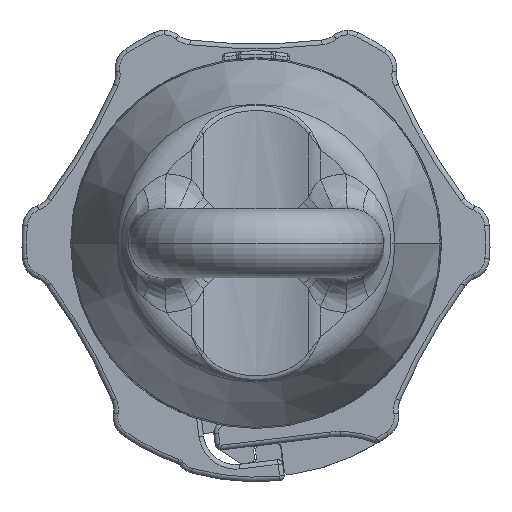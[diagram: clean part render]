
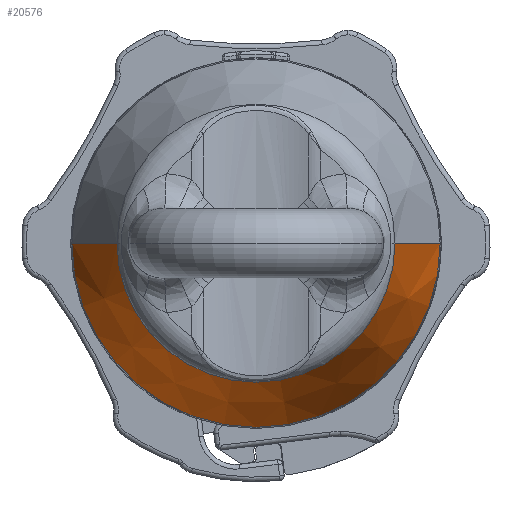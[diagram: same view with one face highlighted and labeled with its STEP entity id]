
A CAD part, front view. The second image highlights one B-rep face of the part: STEP entity #20576.
In plain terms, the highlighted conical face has half-angle 21.306 degrees and reference radius 6 mm.
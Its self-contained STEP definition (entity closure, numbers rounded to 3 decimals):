
#1209 = DIRECTION ( 'NONE',  ( 0.363, 0.932, 0. ) ) ;
#3800 = LINE ( 'NONE', #31638, #40099 ) ;
#5447 = CIRCLE ( 'NONE', #53271, 6. ) ;
#7147 = FACE_OUTER_BOUND ( 'NONE', #22067, .T. ) ;
#7260 = VECTOR ( 'NONE', #1209, 1000. ) ;
#12581 = DIRECTION ( 'NONE',  ( 0., -1., 0. ) ) ;
#16719 = CARTESIAN_POINT ( 'NONE',  ( 0., -34., 0. ) ) ;
#16757 = ORIENTED_EDGE ( 'NONE', *, *, #22590, .T. ) ;
#19673 = ORIENTED_EDGE ( 'NONE', *, *, #34075, .F. ) ;
#20138 = CARTESIAN_POINT ( 'NONE',  ( 6., -34., 0. ) ) ;
#20576 = ADVANCED_FACE ( 'NONE', ( #7147 ), #33443, .T. ) ;
#21205 = DIRECTION ( 'NONE',  ( -1., 0., 0. ) ) ;
#22058 = DIRECTION ( 'NONE',  ( -0.363, 0.932, 0. ) ) ;
#22067 = EDGE_LOOP ( 'NONE', ( #46926, #19673, #44297, #16757 ) ) ;
#22590 = EDGE_CURVE ( 'NONE', #52246, #27257, #35836, .T. ) ;
#24526 = CARTESIAN_POINT ( 'NONE',  ( 6., -34., 0. ) ) ;
#26605 = DIRECTION ( 'NONE',  ( 1., 0., 0. ) ) ;
#27257 = VERTEX_POINT ( 'NONE', #57040 ) ;
#27709 = AXIS2_PLACEMENT_3D ( 'NONE', #38864, #43652, #21205 ) ;
#31638 = CARTESIAN_POINT ( 'NONE',  ( -6., -34., 0. ) ) ;
#32746 = VERTEX_POINT ( 'NONE', #40750 ) ;
#32800 = EDGE_CURVE ( 'NONE', #58231, #27257, #56320, .T. ) ;
#33443 = CONICAL_SURFACE ( 'NONE', #27709, 6., 0.372 ) ;
#34075 = EDGE_CURVE ( 'NONE', #32746, #58231, #5447, .T. ) ;
#34954 = DIRECTION ( 'NONE',  ( 0., -1., 0. ) ) ;
#35304 = CARTESIAN_POINT ( 'NONE',  ( 0., -29., 0. ) ) ;
#35836 = CIRCLE ( 'NONE', #52093, 7.95 ) ;
#38864 = CARTESIAN_POINT ( 'NONE',  ( 0., -34., 0. ) ) ;
#40099 = VECTOR ( 'NONE', #22058, 1000. ) ;
#40750 = CARTESIAN_POINT ( 'NONE',  ( -6., -34., 0. ) ) ;
#42179 = EDGE_CURVE ( 'NONE', #32746, #52246, #3800, .T. ) ;
#43652 = DIRECTION ( 'NONE',  ( 0., 1., 0. ) ) ;
#44297 = ORIENTED_EDGE ( 'NONE', *, *, #42179, .T. ) ;
#46926 = ORIENTED_EDGE ( 'NONE', *, *, #32800, .F. ) ;
#49060 = DIRECTION ( 'NONE',  ( 1., 0., 0. ) ) ;
#52093 = AXIS2_PLACEMENT_3D ( 'NONE', #35304, #12581, #26605 ) ;
#52246 = VERTEX_POINT ( 'NONE', #54362 ) ;
#53271 = AXIS2_PLACEMENT_3D ( 'NONE', #16719, #34954, #49060 ) ;
#54362 = CARTESIAN_POINT ( 'NONE',  ( -7.95, -29., 0. ) ) ;
#56320 = LINE ( 'NONE', #24526, #7260 ) ;
#57040 = CARTESIAN_POINT ( 'NONE',  ( 7.95, -29., 0. ) ) ;
#58231 = VERTEX_POINT ( 'NONE', #20138 ) ;
